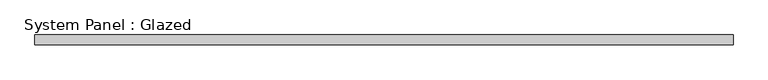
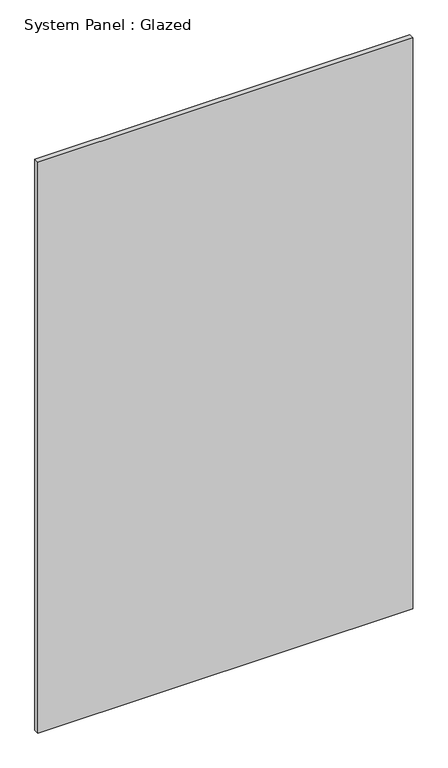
"""IFC4 building model written with IfcOpenShell, lengths in millimetres: plate geometry, System Panel : Glazed."""

import ifcopenshell
import ifcopenshell.guid

model = None  # the IFC model being written
_history = None  # IfcOwnerHistory: only IFC2X3 demands one
_inside = {}  # id of a spatial element -> (the spatial element, [elements in it])
_under = {}  # id of a project, library or spatial element -> (it, [spatial elements below it])
_declared = {}  # id of a project -> (the project, [libraries it declares])
_typed = {}  # id of a type object -> (the type object, [elements of that type])
_made_of = {}  # id of a material, layer set ... -> (it, [elements and type objects made of it])


def new_model(schema):
    """Start an empty IFC model of exactly this schema.

    Asked for "IFC4X3", IfcOpenShell would pick the latest addendum, in which some entities
    have other attributes; the version numbers below select the first issue.
    IFC2X3 requires an IfcOwnerHistory on every rooted entity: one is made here for all.
    """
    global model, _history
    if schema == "IFC4X3":
        model = ifcopenshell.file(schema_version=(4, 3, 0, 0))
    else:
        model = ifcopenshell.file(schema=schema)
    _inside.clear()
    _under.clear()
    _declared.clear()
    _typed.clear()
    _made_of.clear()
    _history = None
    if model.schema == "IFC2X3":
        org = make("IfcOrganization", Name="unknown")
        user = make(
            "IfcPersonAndOrganization",
            ThePerson=make("IfcPerson", FamilyName="unknown"),
            TheOrganization=org,
        )
        app = make(
            "IfcApplication",
            ApplicationDeveloper=org,
            Version="unknown",
            ApplicationFullName="unknown",
            ApplicationIdentifier="unknown",
        )
        _history = make(
            "IfcOwnerHistory",
            OwningUser=user,
            OwningApplication=app,
            ChangeAction="ADDED",
            CreationDate=0,
        )
    return model


def make(cls, **values):
    """One entity of the class cls with the attributes given. An attribute that is None is left unset."""
    return model.create_entity(
        cls, **{name: value for name, value in values.items() if value is not None}
    )


def rooted(cls, **values):
    """An entity with a GlobalId (a new one), such as an element, a storey or a relation."""
    return make(cls, GlobalId=ifcopenshell.guid.new(), OwnerHistory=_history, **values)


def si_unit(unit_type, name, prefix=None):
    """IfcSIUnit, for example si_unit("LENGTHUNIT", "METRE", prefix="MILLI")."""
    return make("IfcSIUnit", UnitType=unit_type, Prefix=prefix, Name=name)


def assignment(units):
    """IfcUnitAssignment: the units of a project."""
    return None if units is None else make("IfcUnitAssignment", Units=units)


def point(xyz):
    """IfcCartesianPoint."""
    return None if xyz is None else make("IfcCartesianPoint", Coordinates=xyz)


def direction(xyz):
    """IfcDirection."""
    return None if xyz is None else make("IfcDirection", DirectionRatios=xyz)


def frame(location, z_axis=None, x_axis=None):
    """IfcAxis2Placement3D, a coordinate frame: its origin and axes. An axis left out is left unset."""
    return make(
        "IfcAxis2Placement3D",
        Location=point(location),
        Axis=direction(z_axis),
        RefDirection=direction(x_axis),
    )


def origin():
    """The frame at (0, 0, 0) with its axes left unset."""
    return frame((0.0, 0.0, 0.0))


def origin_with_axes():
    """The frame at (0, 0, 0) with the z axis (0, 0, 1) and the x axis (1, 0, 0) written out."""
    return frame((0.0, 0.0, 0.0), z_axis=(0.0, 0.0, 1.0), x_axis=(1.0, 0.0, 0.0))


def place(relative_to, where):
    """IfcLocalPlacement: puts the frame where relative to a parent placement (None: the world)."""
    return make(
        "IfcLocalPlacement", PlacementRelTo=relative_to, RelativePlacement=where
    )


def context(
    kind, dimensions, precision=None, world=None, true_north=None, identifier=None
):
    """IfcGeometricRepresentationContext, for example the 3D "Model" context."""
    return make(
        "IfcGeometricRepresentationContext",
        ContextIdentifier=identifier,
        ContextType=kind,
        CoordinateSpaceDimension=dimensions,
        Precision=precision,
        WorldCoordinateSystem=world,
        TrueNorth=true_north,
    )


def project(units=None, contexts=None):
    """IfcProject with its units and contexts."""
    return rooted(
        "IfcProject",
        Name="project",
        RepresentationContexts=contexts,
        UnitsInContext=assignment(units),
    )


def spatial(cls, under=None, at=None, **own):
    """A site, building, storey or space (cls), placed at a placement, below another one or the project."""
    s = rooted(cls, ObjectPlacement=at, **own)
    if under is not None:
        _under.setdefault(under.id(), (under, []))[1].append(s)
    return s


def polyline(points):
    """IfcPolyline through the points."""
    return make("IfcPolyline", Points=[point(p) for p in points])


def outline(outer, holes=None, kind="AREA"):
    """IfcArbitraryClosedProfileDef: a profile drawn as a closed curve; with holes, ...WithVoids."""
    if holes is None:
        return make("IfcArbitraryClosedProfileDef", ProfileType=kind, OuterCurve=outer)
    return make(
        "IfcArbitraryProfileDefWithVoids",
        ProfileType=kind,
        OuterCurve=outer,
        InnerCurves=holes,
    )


def extrude(swept, where, along, depth):
    """IfcExtrudedAreaSolid: the profile swept, set in the frame where, extruded along a direction by depth."""
    return make(
        "IfcExtrudedAreaSolid",
        SweptArea=swept,
        Position=where,
        ExtrudedDirection=direction(along),
        Depth=depth,
    )


def shape(context_of_items, identifier, shape_type, items):
    """IfcShapeRepresentation: the items that make up one representation, for example the "Body"."""
    return make(
        "IfcShapeRepresentation",
        ContextOfItems=context_of_items,
        RepresentationIdentifier=identifier,
        RepresentationType=shape_type,
        Items=items,
    )


def source(mapping_origin, context_of_items, identifier, shape_type, items):
    """IfcRepresentationMap: a shape defined once, which mapped items show again and again."""
    return make(
        "IfcRepresentationMap",
        MappingOrigin=mapping_origin,
        MappedRepresentation=shape(context_of_items, identifier, shape_type, items),
    )


def transform(
    local_origin,
    x_axis=None,
    y_axis=None,
    z_axis=None,
    scale=None,
    scale2=None,
    scale3=None,
    uniform=True,
):
    """IfcCartesianTransformationOperator3D, or its non-uniform kind. x_axis, y_axis, z_axis: its Axis1, 2, 3."""
    if uniform:
        return make(
            "IfcCartesianTransformationOperator3D",
            Axis1=direction(x_axis),
            Axis2=direction(y_axis),
            LocalOrigin=point(local_origin),
            Scale=scale,
            Axis3=direction(z_axis),
        )
    return make(
        "IfcCartesianTransformationOperator3DnonUniform",
        Axis1=direction(x_axis),
        Axis2=direction(y_axis),
        LocalOrigin=point(local_origin),
        Scale=scale,
        Axis3=direction(z_axis),
        Scale2=scale2,
        Scale3=scale3,
    )


def mapped(mapping_source, mapping_target):
    """IfcMappedItem: shows the shape of a source again, moved by a transform."""
    return make(
        "IfcMappedItem", MappingSource=mapping_source, MappingTarget=mapping_target
    )


def made_of(thing, what):
    """Note that an element or type object is made of a material, layer set ...; save() writes the relation."""
    if what is not None:
        _made_of.setdefault(what.id(), (what, []))[1].append(thing)
    return thing


def element(
    cls,
    number,
    at=None,
    inside=None,
    cuts=None,
    type_object=None,
    material=None,
    context=None,
    identifier="Body",
    shape_type=None,
    held_by="IfcProductDefinitionShape",
    body=None,
    shapes=None,
    **own,
):
    """One element of the class cls, such as IfcWall. Its Tag is "e" and its number.

    at: its placement. inside: the storey or other place that contains it. cuts: it is an
    opening in that element (IfcRelVoidsElement). A single representation is given by context,
    identifier, shape_type and body (its items); several are given by shapes. held_by: the class
    of the entity that holds the representations. save() writes the other relations.
    """
    e = rooted(cls, Tag="e%d" % number, ObjectPlacement=at, **own)
    if body is not None:
        shapes = [shape(context, identifier, shape_type, body)]
    if shapes is not None:
        e.Representation = make(held_by, Representations=shapes)
    if inside is not None:
        _inside.setdefault(inside.id(), (inside, []))[1].append(e)
    if cuts is not None:
        rooted(
            "IfcRelVoidsElement", RelatingBuildingElement=cuts, RelatedOpeningElement=e
        )
    if type_object is not None:
        _typed.setdefault(type_object.id(), (type_object, []))[1].append(e)
    return made_of(e, material)


def aggregate(whole, parts):
    """IfcRelAggregates: a whole, such as a stair, and the parts it consists of."""
    return rooted("IfcRelAggregates", RelatingObject=whole, RelatedObjects=parts)


def save(model, path):
    """Write the relations noted so far, then the file.

    IfcRelAggregates (storeys below a building ...), IfcRelContainedInSpatialStructure (elements
    in a storey), IfcRelDefinesByType, IfcRelAssociatesMaterial and IfcRelDeclares: one each for
    every whole, place, type object, material and project.
    """
    for whole, parts in _under.values():
        aggregate(whole, parts)
    for where, things in _inside.values():
        rooted(
            "IfcRelContainedInSpatialStructure",
            RelatedElements=things,
            RelatingStructure=where,
        )
    for kind, things in _typed.values():
        rooted("IfcRelDefinesByType", RelatedObjects=things, RelatingType=kind)
    for what, things in _made_of.values():
        rooted("IfcRelAssociatesMaterial", RelatedObjects=things, RelatingMaterial=what)
    for by, libraries in _declared.values():
        rooted("IfcRelDeclares", RelatingContext=by, RelatedDefinitions=libraries)
    model.write(path)


def system_panel_glazed_e4671943(model_context):
    return source(origin(), model_context, "Body", "SweptSolid", [
        extrude(outline(polyline([(902.3750001, 19.05), (-902.3750001, 19.05), (-902.3750001, 44.45), (902.3750001, 44.45), (902.3750001, 19.05)])), origin_with_axes(), (0.0, 0.0, 1.0), 2904.75),
    ])


if __name__ == "__main__":
    model = new_model("IFC4")
    model_context = context("Model", 3, world=origin())
    ifc_project = project(units=[si_unit("LENGTHUNIT", "METRE", prefix="MILLI")], contexts=[model_context])
    site = spatial("IfcSite", under=ifc_project)
    building = spatial("IfcBuilding", under=site)
    placement = place(None, origin())
    system_panel_glazed_shape = system_panel_glazed_e4671943(model_context)
    element("IfcPlate", 1, ObjectType="System Panel : Glazed", at=placement, inside=building, context=model_context, shape_type="MappedRepresentation", body=[
        mapped(system_panel_glazed_shape, transform((0.0, 0.0, 0.0), x_axis=(1.0, 0.0, 0.0), y_axis=(0.0, 1.0, 0.0), z_axis=(0.0, 0.0, 1.0))),
    ])
    save(model, "model.ifc")
